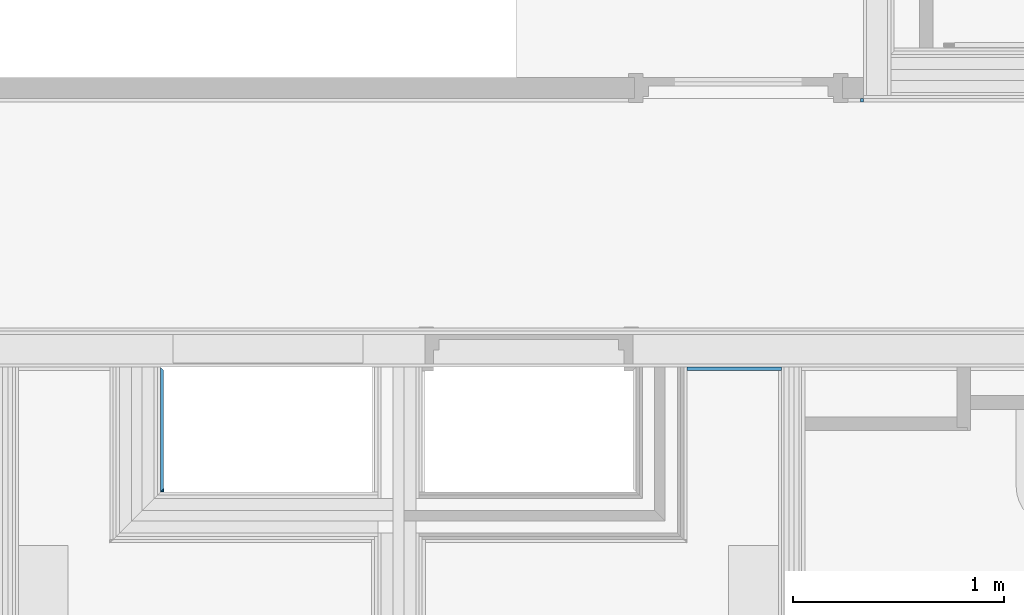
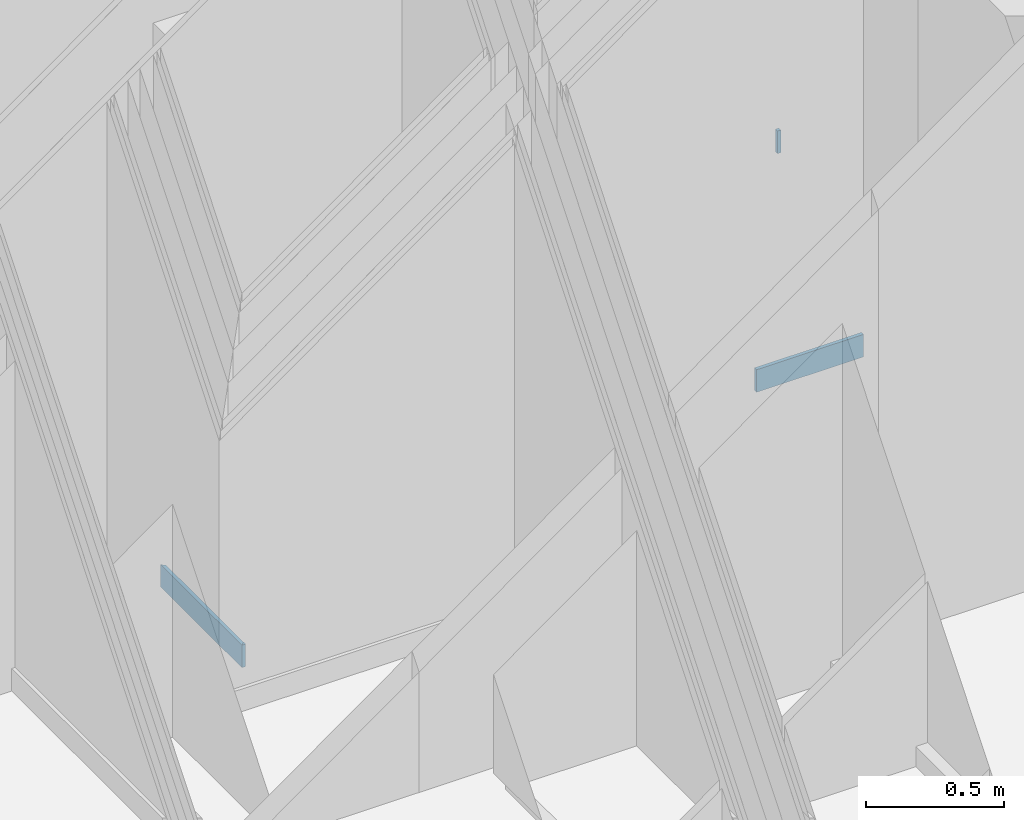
# One storey, part 33 of 65: 4 building element parts, 4 elements without a shape of their own.
"""IFC2X3 building model written with IfcOpenShell, lengths in metres."""

from ifc_helpers import new_model, entity, si_unit, converted_unit, derived_unit, money_unit, direction, frame, frame_2d, origin_with_axes, place, context, subcontext, project, spatial, polyline, rectangle, outline, extrude, material, type_object, element, aggregate, save


model = new_model("IFC2X3")

# Units and contexts
model_context = context("Model", 3, precision=1e-05, world=origin_with_axes(), true_north=direction((0.0, 1.0)))
body_context = subcontext(model_context, "Body", "Model", "MODEL_VIEW", scale=1.0)
ifc_project = project(units=[si_unit("LENGTHUNIT", "METRE"), si_unit("AREAUNIT", "SQUARE_METRE"), si_unit("VOLUMEUNIT", "CUBIC_METRE"), si_unit("ABSORBEDDOSEUNIT", "GRAY"), si_unit("AMOUNTOFSUBSTANCEUNIT", "MOLE"), si_unit("DOSEEQUIVALENTUNIT", "SIEVERT"), si_unit("ELECTRICCAPACITANCEUNIT", "FARAD"), si_unit("ELECTRICCHARGEUNIT", "COULOMB"), si_unit("ELECTRICCONDUCTANCEUNIT", "SIEMENS"), si_unit("ELECTRICCURRENTUNIT", "AMPERE"), si_unit("ELECTRICRESISTANCEUNIT", "OHM"), si_unit("ELECTRICVOLTAGEUNIT", "VOLT"), si_unit("ENERGYUNIT", "JOULE"), si_unit("FORCEUNIT", "NEWTON"), si_unit("FREQUENCYUNIT", "HERTZ"), si_unit("ILLUMINANCEUNIT", "LUX"), si_unit("INDUCTANCEUNIT", "HENRY"), si_unit("LUMINOUSFLUXUNIT", "LUMEN"), si_unit("LUMINOUSINTENSITYUNIT", "CANDELA"), si_unit("MAGNETICFLUXDENSITYUNIT", "TESLA"), si_unit("MAGNETICFLUXUNIT", "WEBER"), si_unit("MASSUNIT", "GRAM"), converted_unit("PLANEANGLEUNIT", "degree", entity("IfcReal", 0.0174532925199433), si_unit("PLANEANGLEUNIT", "RADIAN"), dimensions=[0, 0, 0, 0, 0, 0, 0]), si_unit("POWERUNIT", "WATT"), si_unit("PRESSUREUNIT", "PASCAL"), si_unit("RADIOACTIVITYUNIT", "BECQUEREL"), si_unit("SOLIDANGLEUNIT", "STERADIAN"), si_unit("THERMODYNAMICTEMPERATUREUNIT", "KELVIN"), si_unit("TIMEUNIT", "SECOND"), derived_unit("ACCELERATIONUNIT", [(si_unit("LENGTHUNIT", "METRE"), 1), (si_unit("TIMEUNIT", "SECOND"), -2)]), derived_unit("ANGULARVELOCITYUNIT", [(converted_unit("PLANEANGLEUNIT", "degree", entity("IfcReal", 0.0174532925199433), si_unit("PLANEANGLEUNIT", "RADIAN"), dimensions=[0, 0, 0, 0, 0, 0, 0]), 1), (si_unit("TIMEUNIT", "SECOND"), -1)]), derived_unit("CURVATUREUNIT", [(converted_unit("PLANEANGLEUNIT", "degree", entity("IfcReal", 0.0174532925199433), si_unit("PLANEANGLEUNIT", "RADIAN"), dimensions=[0, 0, 0, 0, 0, 0, 0]), 1), (si_unit("LENGTHUNIT", "METRE"), -1)]), derived_unit("DYNAMICVISCOSITYUNIT", [(si_unit("PRESSUREUNIT", "PASCAL"), 1), (si_unit("TIMEUNIT", "SECOND"), 1)]), derived_unit("HEATFLUXDENSITYUNIT", [(si_unit("POWERUNIT", "WATT"), 1), (si_unit("LENGTHUNIT", "METRE"), -2)]), derived_unit("HEATINGVALUEUNIT", [(si_unit("ENERGYUNIT", "JOULE"), 1), (si_unit("MASSUNIT", "GRAM"), -1)]), derived_unit("INTEGERCOUNTRATEUNIT", [(si_unit("TIMEUNIT", "SECOND"), -1)]), derived_unit("IONCONCENTRATIONUNIT", [(si_unit("MASSUNIT", "GRAM"), 1), (si_unit("VOLUMEUNIT", "CUBIC_METRE"), -1)]), derived_unit("ISOTHERMALMOISTURECAPACITYUNIT", [(si_unit("VOLUMEUNIT", "CUBIC_METRE"), 1), (si_unit("MASSUNIT", "GRAM"), -1)]), derived_unit("KINEMATICVISCOSITYUNIT", [(si_unit("AREAUNIT", "SQUARE_METRE"), 1), (si_unit("TIMEUNIT", "SECOND"), -1)]), derived_unit("LINEARFORCEUNIT", [(si_unit("FORCEUNIT", "NEWTON"), 1), (si_unit("LENGTHUNIT", "METRE"), -1)]), derived_unit("LINEARMOMENTUNIT", [(si_unit("FORCEUNIT", "NEWTON"), 1), (si_unit("LENGTHUNIT", "METRE"), -1)]), derived_unit("LINEARSTIFFNESSUNIT", [(si_unit("FORCEUNIT", "NEWTON"), 1), (si_unit("LENGTHUNIT", "METRE"), -1)]), derived_unit("LINEARVELOCITYUNIT", [(si_unit("LENGTHUNIT", "METRE"), 1), (si_unit("TIMEUNIT", "SECOND"), -1)]), derived_unit("LUMINOUSINTENSITYDISTRIBUTIONUNIT", [(si_unit("LUMINOUSINTENSITYUNIT", "CANDELA"), 1), (si_unit("LUMINOUSFLUXUNIT", "LUMEN"), -1)]), derived_unit("MASSDENSITYUNIT", [(si_unit("MASSUNIT", "GRAM"), 1), (si_unit("VOLUMEUNIT", "CUBIC_METRE"), -1)]), derived_unit("MASSFLOWRATEUNIT", [(si_unit("MASSUNIT", "GRAM"), 1), (si_unit("TIMEUNIT", "SECOND"), -1)]), derived_unit("MASSPERLENGTHUNIT", [(si_unit("MASSUNIT", "GRAM"), 1), (si_unit("LENGTHUNIT", "METRE"), -1)]), derived_unit("MODULUSOFELASTICITYUNIT", [(si_unit("FORCEUNIT", "NEWTON"), 1), (si_unit("AREAUNIT", "SQUARE_METRE"), -1)]), derived_unit("MODULUSOFLINEARSUBGRADEREACTIONUNIT", [(si_unit("FORCEUNIT", "NEWTON"), 1), (si_unit("LENGTHUNIT", "METRE"), -2)]), derived_unit("MODULUSOFROTATIONALSUBGRADEREACTIONUNIT", [(si_unit("FORCEUNIT", "NEWTON"), 1), (si_unit("LENGTHUNIT", "METRE"), 1)]), derived_unit("MODULUSOFSUBGRADEREACTIONUNIT", [(si_unit("FORCEUNIT", "NEWTON"), 1), (si_unit("VOLUMEUNIT", "CUBIC_METRE"), -1)]), derived_unit("MOISTUREDIFFUSIVITYUNIT", [(si_unit("VOLUMEUNIT", "CUBIC_METRE"), 1), (si_unit("TIMEUNIT", "SECOND"), -1)]), derived_unit("MOLECULARWEIGHTUNIT", [(si_unit("MASSUNIT", "GRAM"), 1), (si_unit("AMOUNTOFSUBSTANCEUNIT", "MOLE"), -1)]), derived_unit("PLANARFORCEUNIT", [(si_unit("FORCEUNIT", "NEWTON"), 1), (si_unit("LENGTHUNIT", "METRE"), -2)]), derived_unit("ROTATIONALFREQUENCYUNIT", [(si_unit("TIMEUNIT", "SECOND"), -1)]), derived_unit("ROTATIONALMASSUNIT", [(si_unit("MASSUNIT", "GRAM"), 1), (si_unit("LENGTHUNIT", "METRE"), 2)]), derived_unit("ROTATIONALSTIFFNESSUNIT", [(si_unit("FORCEUNIT", "NEWTON"), 1), (si_unit("LENGTHUNIT", "METRE"), 1), (converted_unit("PLANEANGLEUNIT", "degree", entity("IfcReal", 0.0174532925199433), si_unit("PLANEANGLEUNIT", "RADIAN"), dimensions=[0, 0, 0, 0, 0, 0, 0]), -1)]), derived_unit("SECTIONAREAINTEGRALUNIT", [(si_unit("LENGTHUNIT", "METRE"), 5)]), derived_unit("SECTIONMODULUSUNIT", [(si_unit("LENGTHUNIT", "METRE"), 3)]), derived_unit("SHEARMODULUSUNIT", [(si_unit("FORCEUNIT", "NEWTON"), 1), (si_unit("AREAUNIT", "SQUARE_METRE"), -1)]), derived_unit("SOUNDPOWERUNIT", [(si_unit("ENERGYUNIT", "JOULE"), 1), (si_unit("TIMEUNIT", "SECOND"), -1)]), derived_unit("SPECIFICHEATCAPACITYUNIT", [(si_unit("FORCEUNIT", "NEWTON"), 1), (si_unit("MASSUNIT", "GRAM"), -1), (si_unit("THERMODYNAMICTEMPERATUREUNIT", "KELVIN"), -1)]), derived_unit("TEMPERATUREGRADIENTUNIT", [(si_unit("THERMODYNAMICTEMPERATUREUNIT", "KELVIN"), 1), (si_unit("LENGTHUNIT", "METRE"), -1)]), derived_unit("THERMALADMITTANCEUNIT", [(si_unit("POWERUNIT", "WATT"), 1), (si_unit("AREAUNIT", "SQUARE_METRE"), -1), (si_unit("THERMODYNAMICTEMPERATUREUNIT", "KELVIN"), -1)]), derived_unit("THERMALCONDUCTANCEUNIT", [(si_unit("POWERUNIT", "WATT"), 1), (si_unit("LENGTHUNIT", "METRE"), -1), (si_unit("THERMODYNAMICTEMPERATUREUNIT", "KELVIN"), -1)]), derived_unit("THERMALEXPANSIONCOEFFICIENTUNIT", [(si_unit("THERMODYNAMICTEMPERATUREUNIT", "KELVIN"), -1)]), derived_unit("THERMALRESISTANCEUNIT", [(si_unit("AREAUNIT", "SQUARE_METRE"), 1), (si_unit("POWERUNIT", "WATT"), -1)]), derived_unit("THERMALTRANSMITTANCEUNIT", [(si_unit("POWERUNIT", "WATT"), 1), (si_unit("AREAUNIT", "SQUARE_METRE"), -1), (si_unit("THERMODYNAMICTEMPERATUREUNIT", "KELVIN"), -1)]), derived_unit("TORQUEUNIT", [(si_unit("FORCEUNIT", "NEWTON"), 1), (si_unit("LENGTHUNIT", "METRE"), 1)]), derived_unit("VAPORPERMEABILITYUNIT", [(si_unit("MASSUNIT", "GRAM"), 1), (si_unit("TIMEUNIT", "SECOND"), -1)]), derived_unit("VOLUMETRICFLOWRATEUNIT", [(si_unit("VOLUMEUNIT", "CUBIC_METRE"), 1), (si_unit("TIMEUNIT", "SECOND"), -1)]), derived_unit("WARPINGCONSTANTUNIT", [(si_unit("LENGTHUNIT", "METRE"), 6)]), derived_unit("WARPINGMOMENTUNIT", [(si_unit("FORCEUNIT", "NEWTON"), 1), (si_unit("LENGTHUNIT", "METRE"), 2)]), money_unit("GBP")], contexts=[model_context])

# Site, building, storey
site_placement = place(None, origin_with_axes())
site = spatial("IfcSite", under=ifc_project, at=site_placement, Name="Site", CompositionType="ELEMENT")
building_placement = place(site_placement, origin_with_axes())
building = spatial("IfcBuilding", under=site, at=building_placement, Name="Building01", CompositionType="ELEMENT")
storey_placement = place(building_placement, frame((0.0, 0.0, 8.64), z_axis=(0.0, 0.0, 1.0), x_axis=(1.0, 0.0, 0.0)))
storey = spatial("IfcBuildingStorey", under=building, at=storey_placement, Name="2F", CompositionType="ELEMENT", Elevation=8.64)

# Wall, building element part
wall_type_1 = type_object("IfcWallType", Name="SHE_A-Walls_Type01c_Partywall_225mm_twin_tall", PredefinedType="NOTDEFINED")
wall_1_placement = place(storey_placement, frame((12.288, 4.302428, 0.0), z_axis=(0.0, 0.0, 1.0), x_axis=(1.0, 0.0, 0.0)))
wall_1 = element("IfcWall", 1, at=wall_1_placement, inside=storey, type_object=wall_type_1, Name="1C", ObjectType="SHE_A-Walls_Type01c_Partywall_225mm_twin_tall")
ifc_material = material(Name="A_BSUK_Walls_Timber")
building_element_part_1_placement = place(wall_1_placement, origin_with_axes())
building_element_part_1 = element("IfcBuildingElementPart", 2, at=building_element_part_1_placement, material=ifc_material, Name="9", context=body_context, shape_type="SweptSolid", body=[
    extrude(outline(polyline([(0.102, 0.102), (0.087, 0.087), (0.102549, 0.087), (0.102549, 0.102), (0.102, 0.102)])), frame((0.0, 0.0, 0.015), z_axis=(0.0, 0.0, 1.0), x_axis=(1.0, 0.0, 0.0)), (0.0, 0.0, 1.0), 0.1),
])
aggregate(wall_1, [building_element_part_1])

wall_2_placement = place(storey_placement, frame((12.288, 4.98, 0.0), z_axis=(0.0, 0.0, 1.0), x_axis=(0.0, -1.0, 0.0)))
wall_2 = element("IfcWall", 3, at=wall_2_placement, inside=storey, type_object=wall_type_1, Name="1C", ObjectType="SHE_A-Walls_Type01c_Partywall_225mm_twin_tall")
building_element_part_2_placement = place(wall_2_placement, origin_with_axes())
building_element_part_2 = element("IfcBuildingElementPart", 4, at=building_element_part_2_placement, material=ifc_material, Name="10", context=body_context, shape_type="SweptSolid", body=[
    extrude(outline(polyline([(0.575572, 0.102), (0.015, 0.102), (0.0, 0.087), (0.590572, 0.087), (0.575572, 0.102)])), frame((0.0, 0.0, 0.015), z_axis=(0.0, 0.0, 1.0), x_axis=(1.0, 0.0, 0.0)), (0.0, 0.0, 1.0), 0.1),
])
aggregate(wall_2, [building_element_part_2])

wall_type_2 = type_object("IfcWallType", Name="SHE_A-Walls_Type04a_BlockworkWall_130mm", PredefinedType="NOTDEFINED")
wall_3_placement = place(storey_placement, frame((15.715, 8.665, 0.0), z_axis=(0.0, 0.0, 1.0), x_axis=(0.0, -1.0, 0.0)))
wall_3 = element("IfcWall", 5, at=wall_3_placement, inside=storey, type_object=wall_type_2, Name="4A", ObjectType="SHE_A-Walls_Type04a_BlockworkWall_130mm")
building_element_part_3_placement = place(wall_3_placement, origin_with_axes())
building_element_part_3 = element("IfcBuildingElementPart", 6, at=building_element_part_3_placement, material=ifc_material, Name="1", context=body_context, shape_type="SweptSolid", body=[
    extrude(rectangle(XDim=0.015, YDim=0.015, at=frame_2d((2.4225, -0.0225), x_axis=(0.0, -1.0))), frame((0.0, 0.0, 0.015), z_axis=(0.0, 0.0, 1.0), x_axis=(1.0, 0.0, 0.0)), (0.0, 0.0, 1.0), 0.1),
])
aggregate(wall_3, [building_element_part_3])

wall_type_3 = type_object("IfcWallType", Name="SHE_A-Walls_Type03a_BlockworkWall_170mm", PredefinedType="NOTDEFINED")
wall_4_placement = place(storey_placement, frame((9.075, 4.995, 0.0), z_axis=(0.0, 0.0, 1.0), x_axis=(1.0, 0.0, 0.0)))
wall_4 = element("IfcWall", 7, at=wall_4_placement, inside=storey, type_object=wall_type_3, Name="4B", ObjectType="SHE_A-Walls_Type03a_BlockworkWall_170mm")
building_element_part_4_placement = place(wall_4_placement, origin_with_axes())
building_element_part_4 = element("IfcBuildingElementPart", 8, at=building_element_part_4_placement, material=ifc_material, Name="2", context=body_context, shape_type="SweptSolid", body=[
    extrude(rectangle(XDim=0.4475, YDim=0.015, at=frame_2d((6.01375, -0.0225), x_axis=(-1.0, 0.0))), frame((0.0, 0.0, 0.015), z_axis=(0.0, 0.0, 1.0), x_axis=(1.0, 0.0, 0.0)), (0.0, 0.0, 1.0), 0.1),
])
aggregate(wall_4, [building_element_part_4])

save(model, "model.ifc")
